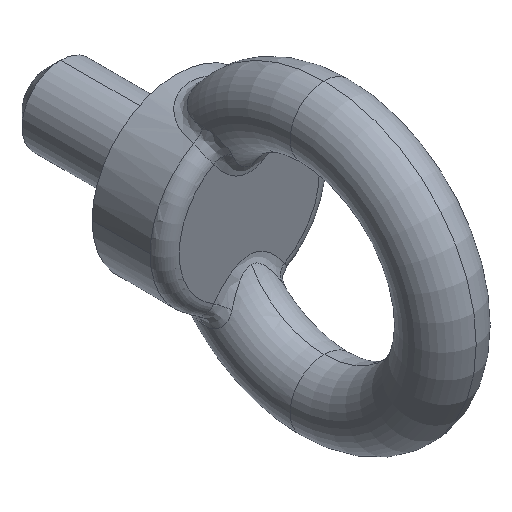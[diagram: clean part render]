
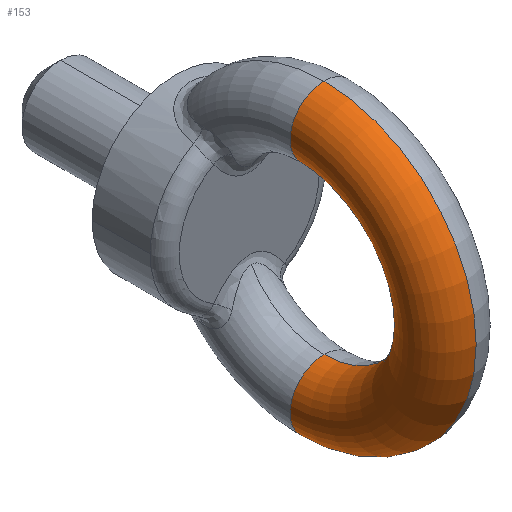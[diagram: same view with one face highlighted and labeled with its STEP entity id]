
A CAD part, isometric view. The second image highlights one B-rep face of the part: STEP entity #153.
In plain terms, the highlighted toroidal (fillet/blend) face has major radius 24.5 mm and minor radius 7 mm.
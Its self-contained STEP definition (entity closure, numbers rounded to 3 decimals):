
#153=ADVANCED_FACE('',(#427),#428,.T.);
#427=FACE_OUTER_BOUND('',#827,.T.);
#428=TOROIDAL_SURFACE('',#828,24.5,7.0);
#827=EDGE_LOOP('',(#1796,#1797,#1798,#1799));
#828=AXIS2_PLACEMENT_3D('',#1800,#1801,#1802);
#1796=ORIENTED_EDGE('',*,*,#2850,.F.);
#1797=ORIENTED_EDGE('',*,*,#2851,.T.);
#1798=ORIENTED_EDGE('',*,*,#2852,.F.);
#1799=ORIENTED_EDGE('',*,*,#2853,.T.);
#1800=CARTESIAN_POINT('',(0.0,0.0,0.0));
#1801=DIRECTION('',(1.0,0.0,0.0));
#1802=DIRECTION('',(0.0,0.0,-1.0));
#2850=EDGE_CURVE('',#3320,#3321,#3322,.T.);
#2851=EDGE_CURVE('',#3320,#3323,#3324,.T.);
#2852=EDGE_CURVE('',#3325,#3323,#3326,.T.);
#2853=EDGE_CURVE('',#3325,#3321,#3327,.T.);
#3320=VERTEX_POINT('',#4011);
#3321=VERTEX_POINT('',#4012);
#3322=CIRCLE('',#4013,31.5);
#3323=VERTEX_POINT('',#4014);
#3324=CIRCLE('',#4015,7.0);
#3325=VERTEX_POINT('',#4016);
#3326=CIRCLE('',#4017,17.5);
#3327=CIRCLE('',#4018,7.0);
#4011=CARTESIAN_POINT('',(0.,0.,31.5));
#4012=CARTESIAN_POINT('',(0.,0.,-31.5));
#4013=AXIS2_PLACEMENT_3D('',#5707,#5708,#5709);
#4014=CARTESIAN_POINT('',(0.,0.,17.5));
#4015=AXIS2_PLACEMENT_3D('',#5710,#5711,#5712);
#4016=CARTESIAN_POINT('',(0.,0.,-17.5));
#4017=AXIS2_PLACEMENT_3D('',#5713,#5714,#5715);
#4018=AXIS2_PLACEMENT_3D('',#5716,#5717,#5718);
#5707=CARTESIAN_POINT('',(0.,0.0,0.0));
#5708=DIRECTION('',(1.0,0.0,0.0));
#5709=DIRECTION('',(0.0,0.0,-1.0));
#5710=CARTESIAN_POINT('',(0.0,0.,24.5));
#5711=DIRECTION('',(0.0,-1.0,0.));
#5712=DIRECTION('',(0.0,0.,1.0));
#5713=CARTESIAN_POINT('',(0.,0.0,0.0));
#5714=DIRECTION('',(-1.0,-0.0,-0.0));
#5715=DIRECTION('',(0.0,0.0,-1.0));
#5716=CARTESIAN_POINT('',(0.0,0.,-24.5));
#5717=DIRECTION('',(0.0,-1.0,0.));
#5718=DIRECTION('',(0.0,0.,-1.0));
